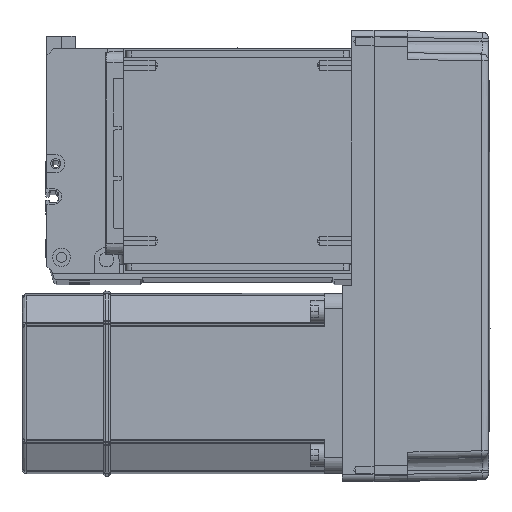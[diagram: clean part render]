
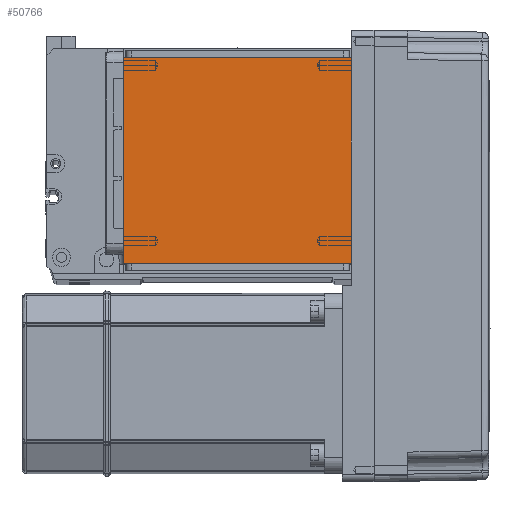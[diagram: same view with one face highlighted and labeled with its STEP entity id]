
A CAD part, top view. The second image highlights one B-rep face of the part: STEP entity #50766.
In plain terms, the highlighted planar face has unit normal (0, 0, 1).
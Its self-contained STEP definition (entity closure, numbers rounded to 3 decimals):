
#56 = ORIENTED_EDGE ( 'NONE', *, *, #14655, .F. ) ;
#710 = VECTOR ( 'NONE', #17922, 1000. ) ;
#1655 = DIRECTION ( 'NONE',  ( 0., 0., 1. ) ) ;
#2753 = VECTOR ( 'NONE', #39549, 1000. ) ;
#3547 = DIRECTION ( 'NONE',  ( -1., 0., 0. ) ) ;
#4048 = CARTESIAN_POINT ( 'NONE',  ( 50.5, 122., 115. ) ) ;
#4141 = EDGE_CURVE ( 'NONE', #39215, #41590, #55412, .T. ) ;
#4925 = CARTESIAN_POINT ( 'NONE',  ( 50.5, 111.5, 115. ) ) ;
#5342 = EDGE_CURVE ( 'NONE', #50936, #16433, #51085, .T. ) ;
#6261 = DIRECTION ( 'NONE',  ( 1., 0., 0. ) ) ;
#10050 = CARTESIAN_POINT ( 'NONE',  ( 0., 0., 115. ) ) ;
#14655 = EDGE_CURVE ( 'NONE', #50936, #41590, #38646, .T. ) ;
#16433 = VERTEX_POINT ( 'NONE', #4925 ) ;
#17496 = DIRECTION ( 'NONE',  ( 0., -1., 0. ) ) ;
#17922 = DIRECTION ( 'NONE',  ( 0., 1., 0. ) ) ;
#18949 = ORIENTED_EDGE ( 'NONE', *, *, #4141, .T. ) ;
#19077 = AXIS2_PLACEMENT_3D ( 'NONE', #10050, #1655, #6261 ) ;
#19170 = PLANE ( 'NONE',  #19077 ) ;
#22263 = CARTESIAN_POINT ( 'NONE',  ( -50.5, 111.5, 115. ) ) ;
#25452 = ORIENTED_EDGE ( 'NONE', *, *, #5342, .T. ) ;
#30683 = CARTESIAN_POINT ( 'NONE',  ( -70.004, 20., 115. ) ) ;
#34573 = CARTESIAN_POINT ( 'NONE',  ( -70.004, 111.5, 115. ) ) ;
#38646 = LINE ( 'NONE', #30683, #49274 ) ;
#39215 = VERTEX_POINT ( 'NONE', #22263 ) ;
#39402 = CARTESIAN_POINT ( 'NONE',  ( -50.5, 20., 115. ) ) ;
#39549 = DIRECTION ( 'NONE',  ( 1., 0., 0. ) ) ;
#39692 = LINE ( 'NONE', #34573, #2753 ) ;
#41590 = VERTEX_POINT ( 'NONE', #39402 ) ;
#43116 = CARTESIAN_POINT ( 'NONE',  ( 50.5, 20., 115. ) ) ;
#44106 = VECTOR ( 'NONE', #17496, 1000. ) ;
#44662 = CARTESIAN_POINT ( 'NONE',  ( -50.5, 122., 115. ) ) ;
#46438 = ORIENTED_EDGE ( 'NONE', *, *, #57635, .F. ) ;
#49274 = VECTOR ( 'NONE', #3547, 1000. ) ;
#50766 = ADVANCED_FACE ( 'NONE', ( #55758 ), #19170, .T. ) ;
#50936 = VERTEX_POINT ( 'NONE', #43116 ) ;
#51085 = LINE ( 'NONE', #4048, #710 ) ;
#55412 = LINE ( 'NONE', #44662, #44106 ) ;
#55758 = FACE_OUTER_BOUND ( 'NONE', #57867, .T. ) ;
#57635 = EDGE_CURVE ( 'NONE', #39215, #16433, #39692, .T. ) ;
#57867 = EDGE_LOOP ( 'NONE', ( #46438, #18949, #56, #25452 ) ) ;
